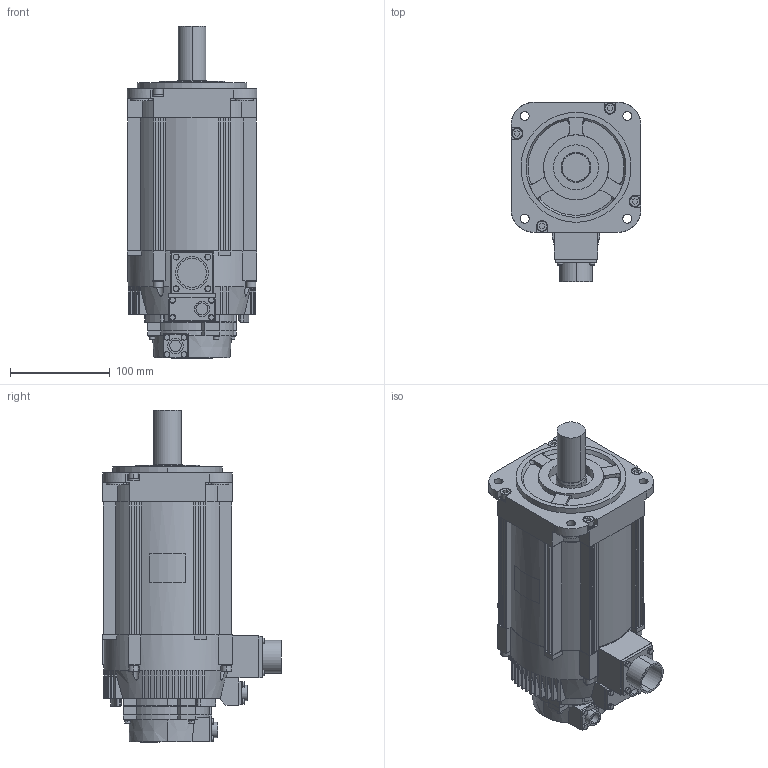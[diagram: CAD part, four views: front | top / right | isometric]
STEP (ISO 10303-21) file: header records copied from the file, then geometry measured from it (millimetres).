
FILE_DESCRIPTION (( 'STEP AP203' ), '1' );
FILE_NAME ('sgm7a_40a_a2c.STEP', '2016-02-18T23:40:10', ( '匠エンジニアリング山之内' ), ( 'TAKUMI-Engniaring' ), 'SwSTEP 2.0', 'SolidWorks 2006303', '' );
FILE_SCHEMA (( 'CONFIG_CONTROL_DESIGN' ));
Length unit declared in the file: millimetre
Products named in the file (1): sgm7a_40a_a2c
Bounding box: 130 x 179 x 332.1 mm (x, y, z)
Volume: 3459425.8 mm3; surface area: 218993.7 mm2
Topology: 1 solids, 1 shells, 819 faces, 2134 edges, 1406 vertices
Faces by surface type: plane 525, cylinder 242, cone 46, bspline 6
Entity records: 25807 total; most frequent: CARTESIAN_POINT 5165, DIRECTION 4319, ORIENTED_EDGE 4268, EDGE_CURVE 2134, AXIS2_PLACEMENT_3D 1483, VERTEX_POINT 1406, LINE 1353, VECTOR 1353
